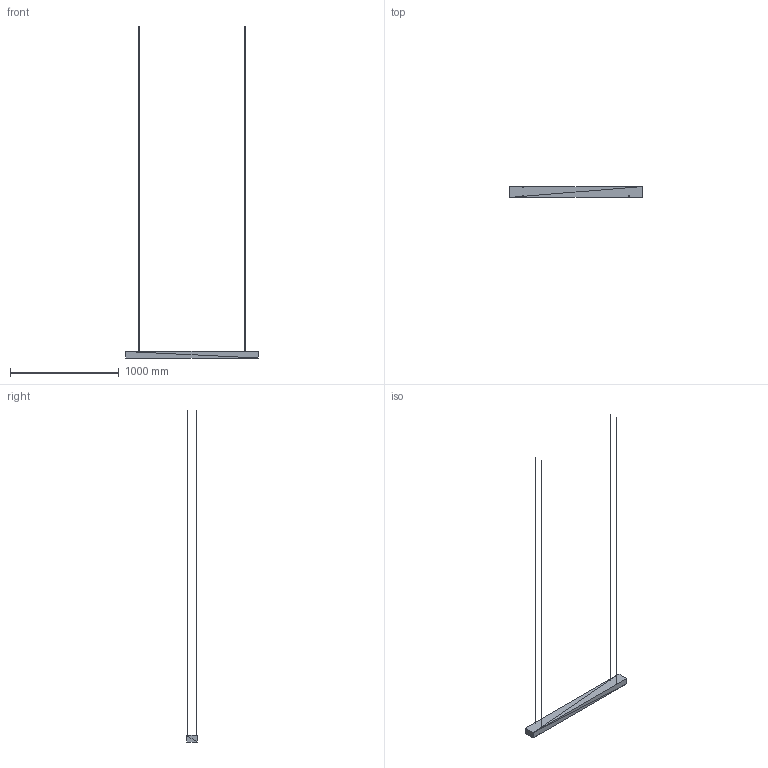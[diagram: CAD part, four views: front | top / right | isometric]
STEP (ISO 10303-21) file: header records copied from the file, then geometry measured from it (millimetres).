
FILE_DESCRIPTION(('ISINAC STEP AP214'),'2;1');
FILE_NAME('ISINAC_R.1220.100_60mm_COLGADO','2026-05-03T10:49:19',('ISINAC'),('www.isinac.com'),'ISINAC BIM Generator 1.0','','');
FILE_SCHEMA(('AUTOMOTIVE_DESIGN'));
Length unit declared in the file: millimetre
Products named in the file (1): ISINAC_R.1220.100_60mm_COLGADO
Bounding box: 1220 x 100 x 3060 mm (x, y, z)
Surface area: 510446.8 mm2 (no closed solid volume)
Topology: 0 solids, 92 shells, 92 faces, 276 edges, 276 vertices
Faces by surface type: plane 92
Entity records: 1025 total; most frequent: CARTESIAN_POINT 368, DIRECTION 184, POLY_LOOP 92, FACE_OUTER_BOUND 92, AXIS2_PLACEMENT_3D 92, PLANE 92, FACE_SURFACE 92, CLOSED_SHELL 1
